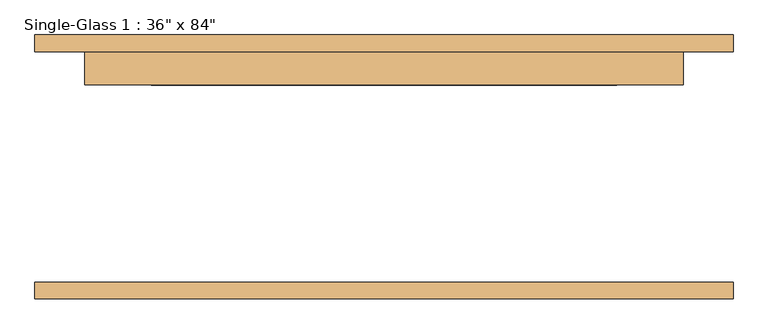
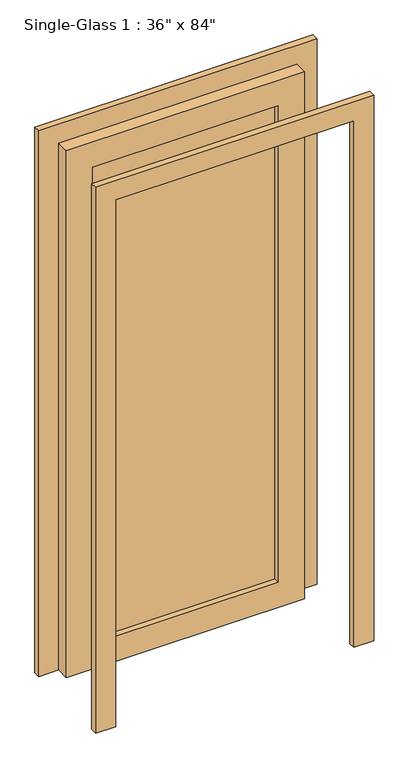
"""IFC4 building model written with IfcOpenShell, lengths in millimetres: door geometry."""

from ifc_helpers import new_model, si_unit, frame, origin, place, context, project, spatial, polyline, outline, extrude, source, transform, mapped, element, save


def door_14e9a3b2(model_context):
    return source(origin(), model_context, "Body", "SweptSolid", [
        extrude(outline(polyline([(2133.6, 457.2), (0.0, 457.2), (0.0, 533.4), (2209.8, 533.4), (2209.8, -533.4), (0.0, -533.4), (0.0, -457.2), (2133.6, -457.2), (2133.6, 457.2)])), frame((0.0, -201.6125, 0.0), z_axis=(0.0, 1.0, 0.0), x_axis=(0.0, 0.0, 1.0)), (0.0, 0.0, 1.0), 25.4),
        extrude(outline(polyline([(2133.6, 457.2), (0.0, 457.2), (0.0, 533.4), (2209.8, 533.4), (2209.8, -533.4), (0.0, -533.4), (0.0, -457.2), (2133.6, -457.2), (2133.6, 457.2)])), frame((0.0, 176.2125, 0.0), z_axis=(0.0, 1.0, 0.0), x_axis=(0.0, 0.0, 1.0)), (0.0, 0.0, 1.0), 25.4),
        extrude(outline(polyline([(355.6, 147.6375), (-355.6, 147.6375), (-355.6, 153.9875), (355.6, 153.9875), (355.6, 147.6375)])), frame((0.0, 0.0, 101.6), z_axis=(0.0, 0.0, 1.0), x_axis=(1.0, 0.0, 0.0)), (0.0, 0.0, 1.0), 1930.4),
        extrude(outline(polyline([(2133.6, 457.2), (2133.6, -457.2), (0.0, -457.2), (0.0, 457.2), (2133.6, 457.2)]), holes=[polyline([(2032.0, -355.6), (2032.0, 355.6), (101.6, 355.6), (101.6, -355.6), (2032.0, -355.6)])]), frame((0.0, 125.4125, 0.0), z_axis=(0.0, 1.0, 0.0), x_axis=(0.0, 0.0, 1.0)), (0.0, 0.0, 1.0), 50.8),
    ])


if __name__ == "__main__":
    model = new_model("IFC4")
    model_context = context("Model", 3, world=origin())
    ifc_project = project(units=[si_unit("LENGTHUNIT", "METRE", prefix="MILLI")], contexts=[model_context])
    site = spatial("IfcSite", under=ifc_project)
    building = spatial("IfcBuilding", under=site)
    placement = place(None, origin())
    door_shape = door_14e9a3b2(model_context)
    element("IfcDoor", 1, ObjectType="Single-Glass 1 : 36\" x 84\"", at=placement, inside=building, context=model_context, shape_type="MappedRepresentation", body=[
        mapped(door_shape, transform((0.0, 0.0, 0.0), x_axis=(1.0, 0.0, 0.0), y_axis=(0.0, 1.0, 0.0), z_axis=(0.0, 0.0, 1.0))),
    ])
    save(model, "model.ifc")
